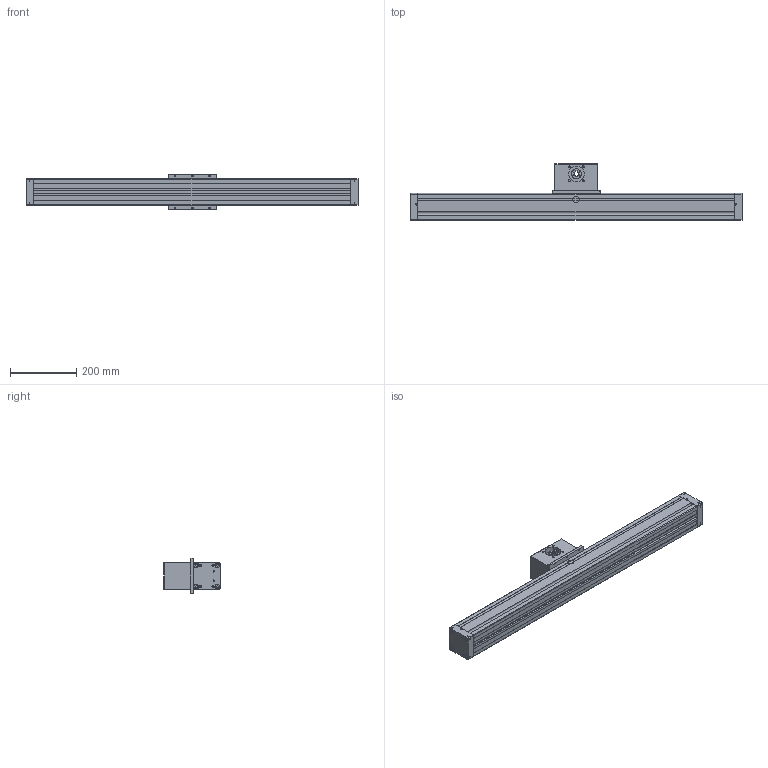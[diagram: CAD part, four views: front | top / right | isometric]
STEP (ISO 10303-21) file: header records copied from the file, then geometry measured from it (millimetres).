
FILE_DESCRIPTION (( 'STEP AP214' ), '1' );
FILE_NAME ('QSSZ-80.STEP', '2016-01-11T10:16:54', ( 'admin' ), ( '' ), 'SwSTEP 2.0', 'SolidWorks 2015', '' );
FILE_SCHEMA (( 'AUTOMOTIVE_DESIGN' ));
Length unit declared in the file: millimetre
Products named in the file (5): QSSZ-80; Kopie von Bahr-QSSZ-QSSZ-80  1  0 0 0  0 7  1  700  Q=145_Lagerstuck^QSSZ80 S0 A0; Kopie von Bahr-QSSZ-QSSZ-80  1  0 0 0  0 7  1  700  Q=145_QSSZ Drive Block^QSSZ80 S0 A0_80-A; Kopie von Bahr-QSSZ-QSSZ-80  1  0 0 0  0 7  1  700  Q=145_QSSZ Carriage 80^QSSZ80 S0 A0; Kopie von Bahr-QSSZ-QSSZ-80  1  0 0 0  0 7  1  700  Q=145_QSSZ Extrusion 80^QSSZ80 S0 A0
Assembly tree (5 placements, depth 2):
  QSSZ-80
    Kopie von Bahr-QSSZ-QSSZ-80  1  0 0 0  0 7  1  700  Q=145_QSSZ Extrusion 80^QSSZ80 S0 A0
    Kopie von Bahr-QSSZ-QSSZ-80  1  0 0 0  0 7  1  700  Q=145_QSSZ Carriage 80^QSSZ80 S0 A0
    Kopie von Bahr-QSSZ-QSSZ-80  1  0 0 0  0 7  1  700  Q=145_QSSZ Drive Block^QSSZ80 S0 A0_80-A
    Kopie von Bahr-QSSZ-QSSZ-80  1  0 0 0  0 7  1  700  Q=145_Lagerstuck^QSSZ80 S0 A0  x2
Bounding box: 1000 x 169 x 106 mm (x, y, z)
Volume: 6857502.9 mm3; surface area: 569787.4 mm2
Topology: 7 solids, 7 shells, 386 faces, 935 edges, 576 vertices
Faces by surface type: cylinder 158, plane 158, cone 34, torus 28, sphere 8
Entity records: 9336 total; most frequent: DIRECTION 1615, CARTESIAN_POINT 1455, ORIENTED_EDGE 1402, EDGE_CURVE 701, AXIS2_PLACEMENT_3D 616, VERTEX_POINT 440, VECTOR 383, LINE 383
